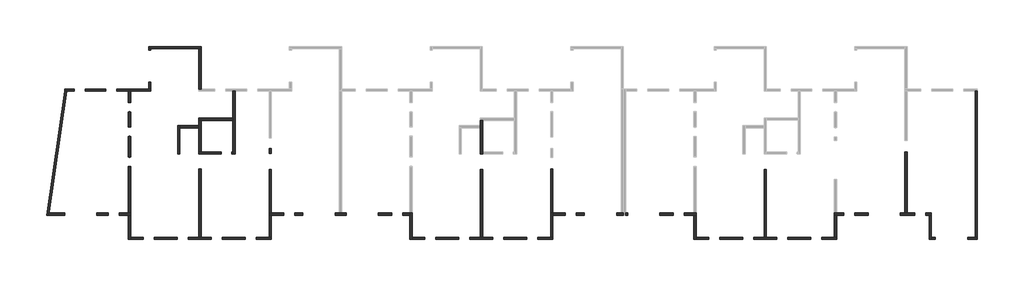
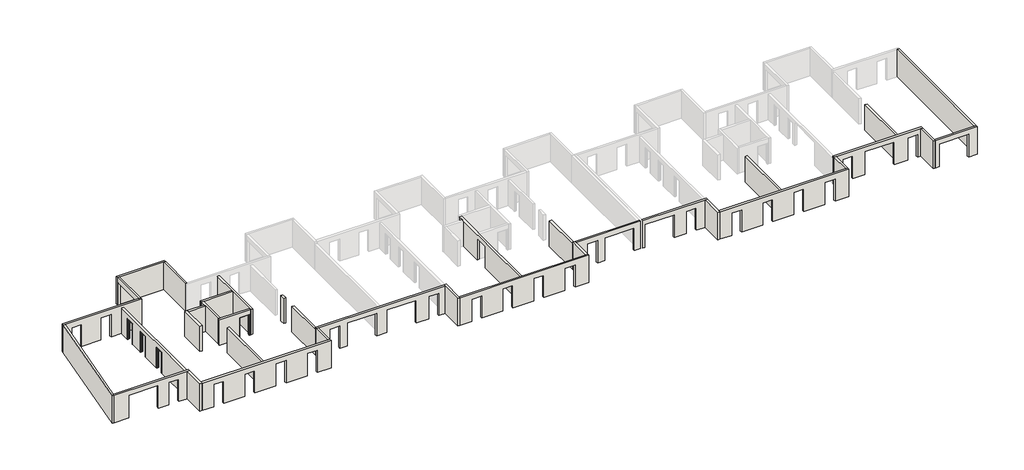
# One storey, part 1 of 2: 36 walls, 4 doors.
"""IFC4 building model written with IfcOpenShell, lengths in millimetres."""

from ifc_helpers import new_model, si_unit, frame, origin, place, context, project, spatial, polyline, outline, extrude, faceted_brep, transform, mapped, element, save
from components import door_48b161e2, door_a0d7bfd5

model = new_model("IFC4")

# Units and contexts
model_context = context("Model", 3, world=origin())
ifc_project = project(units=[si_unit("LENGTHUNIT", "METRE", prefix="MILLI")], contexts=[model_context])

# Site, building, storey
site = spatial("IfcSite", under=ifc_project)
building = spatial("IfcBuilding", under=site)
storey = spatial("IfcBuildingStorey", under=building, Name="Niv +1", Elevation=2700.0)

# Doors
placement = place(None, origin())
door_shape = door_48b161e2(model_context)
element("IfcDoor", 1, ObjectType="FREYS HUISSERIE A BANCHER : FREYS 83*2.035", at=placement, inside=storey, context=model_context, shape_type="MappedRepresentation", body=[
    mapped(door_shape, transform((-24535.4687207, 4881.6493651, 2700.0), x_axis=(0.0, 1.0, 0.0), y_axis=(-1.0, 0.0, 0.0), z_axis=(0.0, 0.0, 1.0))),
])
element("IfcDoor", 2, ObjectType="FREYS HUISSERIE A BANCHER : FREYS 83*2.035", at=placement, inside=storey, context=model_context, shape_type="MappedRepresentation", body=[
    mapped(door_shape, transform((-24535.4687207, 2792.5336653, 2700.0), x_axis=(0.0, 1.0, 0.0), y_axis=(-1.0, 0.0, 0.0), z_axis=(0.0, 0.0, 1.0))),
])
element("IfcDoor", 3, ObjectType="FREYS HUISSERIE A BANCHER : FREYS 83*2.035", at=placement, inside=storey, context=model_context, shape_type="MappedRepresentation", body=[
    mapped(door_shape, transform((-24535.4687207, 207.5134423, 2700.0), x_axis=(0.0, 1.0, 0.0), y_axis=(-1.0, 0.0, 0.0), z_axis=(0.0, 0.0, 1.0))),
])
door_2_shape = door_a0d7bfd5(model_context)
element("IfcDoor", 4, ObjectType="FREYS HUISSERIE A BANCHER : FREYS 93*2.035", at=placement, inside=storey, context=model_context, shape_type="MappedRepresentation", body=[
    mapped(door_2_shape, transform((-16267.2536997, 956.3702418, 2700.0), x_axis=(1.0, 0.0, 0.0), y_axis=(0.0, 1.0, 0.0), z_axis=(0.0, 0.0, 1.0))),
])

# Walls
element("IfcWall", 5, ObjectType="FREYS voile BA C25/30 ep=18 EXT", at=placement, inside=storey, context=model_context, shape_type="Brep", body=[
    faceted_brep([(-22725.443151, 6246.3702418, 5400.0), (-29881.1275521, 6246.3702418, 5400.0), (-30063.034009, 6246.3702418, 5400.0), (-30063.034009, 6246.3702418, 2700.0), (-29881.1275521, 6246.3702418, 2700.0), (-29265.4415616, 6246.3702418, 2700.0), (-29265.4415616, 6246.3702418, 4880.0), (-28325.4415616, 6246.3702418, 4880.0), (-28325.4415616, 6246.3702418, 2700.0), (-26545.4423564, 6246.3702418, 2700.0), (-26545.4423564, 6246.3702418, 4880.0), (-25605.4423564, 6246.3702418, 4880.0), (-25605.4423564, 6246.3702418, 2700.0), (-24635.4687207, 6246.3702418, 2700.0), (-24435.4687207, 6246.3702418, 2700.0), (-22725.443151, 6246.3702418, 2700.0), (-30036.7669373, 6426.3702418, 5400.0), (-22905.443151, 6426.3702418, 5400.0), (-22725.443151, 6426.3702418, 5400.0), (-22725.443151, 6426.3702418, 2700.0), (-22905.443151, 6426.3702418, 2700.0), (-25605.4423564, 6426.3702418, 2700.0), (-25605.4423564, 6426.3702418, 4880.0), (-26545.4423564, 6426.3702418, 4880.0), (-26545.4423564, 6426.3702418, 2700.0), (-28325.4415616, 6426.3702418, 2700.0), (-28325.4415616, 6426.3702418, 4880.0), (-29265.4415616, 6426.3702418, 4880.0), (-29265.4415616, 6426.3702418, 2700.0), (-30036.7669373, 6426.3702418, 2700.0)], [[[0, 1, 2, 3, 4, 5, 6, 7, 8, 9, 10, 11, 12, 13, 14, 15]], [[16, 17, 18, 19, 20, 21, 22, 23, 24, 25, 26, 27, 28, 29]], [[19, 15, 14, 13, 12, 21, 20]], [[3, 29, 28, 5, 4]], [[8, 25, 24, 9]], [[2, 1, 0, 18, 17, 16]], [[0, 15, 19, 18]], [[3, 2, 16, 29]], [[27, 6, 5, 28]], [[7, 26, 25, 8]], [[6, 27, 26, 7]], [[11, 22, 21, 12]], [[23, 10, 9, 24]], [[22, 11, 10, 23]]]),
])
element("IfcWall", 6, ObjectType="FREYS voile BA C25/30 ep=18 EXT", at=placement, inside=storey, context=model_context, shape_type="SweptSolid", body=[
    extrude(outline(polyline([(6426.3702418, 5400.0), (9876.3428653, 5400.0), (9876.3428653, 2700.0), (9746.3428651, 2700.0), (9746.3428651, 4930.0), (7006.3428651, 4930.0), (7006.3428651, 2700.0), (6426.3702418, 2700.0), (6426.3702418, 5400.0)])), frame((-22905.443151, 0.0, 0.0), z_axis=(1.0, 0.0, 0.0), x_axis=(0.0, 1.0, 0.0)), (0.0, 0.0, 1.0), 180.0),
])
element("IfcWall", 7, ObjectType="FREYS voile BA C25/30 ep=18 EXT", at=placement, inside=storey, context=model_context, shape_type="Brep", body=[
    faceted_brep([(-22905.443151, 9876.3428653, 2700.0), (-22725.443151, 9876.3428653, 2700.0), (-18615.4433224, 9876.3428653, 2700.0), (-18435.4433224, 9876.3428653, 2700.0), (-18435.4433224, 9876.3428653, 5400.0), (-18615.4433224, 9876.3428653, 5400.0), (-22725.443151, 9876.3428653, 5400.0), (-22905.443151, 9876.3428653, 5400.0), (-22905.443151, 10056.3428653, 2700.0), (-22905.443151, 10056.3428653, 5400.0), (-18435.4433224, 10056.3428653, 5400.0), (-18435.4433224, 10056.3428653, 2700.0)], [[[0, 1, 2, 3, 4, 5, 6, 7]], [[8, 9, 10, 11]], [[3, 2, 1, 0, 8, 11]], [[7, 6, 5, 4, 10, 9]], [[4, 3, 11, 10]], [[0, 7, 9, 8]]]),
])
element("IfcWall", 8, ObjectType="FREYS voile BA C25/30 ep=18 EXT", at=placement, inside=storey, context=model_context, shape_type="SweptSolid", body=[
    extrude(outline(polyline([(-18615.4433224, 6426.3702418), (-18615.4433224, 9876.3428653), (-18435.4433224, 9876.3428653), (-18435.4433224, 6426.3702418), (-18615.4433224, 6426.3702418)])), frame((0.0, 0.0, 2700.0), z_axis=(0.0, 0.0, 1.0), x_axis=(1.0, 0.0, 0.0)), (0.0, 0.0, 1.0), 2700.0),
])
element("IfcWall", 9, ObjectType="FREYS voile BA C25/30 ep=20 INT", at=placement, inside=storey, context=model_context, shape_type="SweptSolid", body=[
    extrude(outline(polyline([(29564.5058748, -6223.682253), (29564.5058748, -433.6571301), (29764.5058748, -433.6571301), (29764.5058748, -6223.682253), (29564.5058748, -6223.682253)])), frame((0.0, 0.0, 2700.0), z_axis=(0.0, 0.0, 1.0), x_axis=(1.0, 0.0, 0.0)), (0.0, 0.0, 1.0), 2500.0),
])
element("IfcWall", 10, ObjectType="FREYS voile BA C25/30 ep=20 INT", at=placement, inside=storey, context=model_context, shape_type="SweptSolid", body=[
    extrude(outline(polyline([(41564.5566776, -4173.6837353), (41564.5566776, 1056.3989108), (41764.5566776, 1056.3989108), (41764.5566776, -4173.6837353), (41564.5566776, -4173.6837353)])), frame((0.0, 0.0, 2700.0), z_axis=(0.0, 0.0, 1.0), x_axis=(1.0, 0.0, 0.0)), (0.0, 0.0, 1.0), 2500.0),
])
element("IfcWall", 11, ObjectType="FREYS voile BA C25/30 ep=20 INT", at=placement, inside=storey, context=model_context, shape_type="SweptSolid", body=[
    extrude(outline(polyline([(2369.3450086, 2700.0), (614.3247856, 2700.0), (614.3247856, 4735.0), (-215.6752144, 4735.0), (-215.6752144, 2700.0), (-4173.6571231, 2700.0), (-4173.6571231, 5200.0), (6246.3702418, 5200.0), (6246.3702418, 2700.0), (5288.4607084, 2700.0), (5288.4607084, 4735.0), (4458.4607084, 4735.0), (4458.4607084, 2700.0), (3199.3450086, 2700.0), (3199.3450086, 4735.0), (2369.3450086, 4735.0), (2369.3450086, 2700.0)])), frame((-24635.4687207, 0.0, 0.0), z_axis=(1.0, 0.0, 0.0), x_axis=(0.0, 1.0, 0.0)), (0.0, 0.0, 1.0), 200.0),
])
element("IfcWall", 12, ObjectType="FREYS voile BA C25/30 ep=18 EXT", at=placement, inside=storey, context=model_context, shape_type="Brep", body=[
    faceted_brep([(-30063.034009, 6246.3702418, 2700.0), (-31609.8766701, -4353.6571231, 2700.0), (-31609.8766701, -4353.6571231, 5400.0), (-30063.034009, 6246.3702418, 5400.0), (-29881.1275521, 6246.3702418, 2700.0), (-29881.1275521, 6246.3702418, 5400.0), (-31401.7031415, -4173.6571231, 5400.0), (-31427.9702133, -4353.6571231, 5400.0), (-31427.9702133, -4353.6571231, 2700.0), (-31401.7031415, -4173.6571231, 2700.0)], [[[0, 1, 2, 3]], [[4, 5, 6, 7, 8, 9]], [[1, 0, 4, 9, 8]], [[3, 2, 7, 6, 5]], [[0, 3, 5, 4]], [[2, 1, 8, 7]]]),
])
element("IfcWall", 13, ObjectType="FREYS voile BA C25/30 ep=18 EXT", at=placement, inside=storey, context=model_context, shape_type="Brep", body=[
    faceted_brep([(-27315.4431946, -4353.6571231, 4930.0), (-27315.4431946, -4353.6571231, 2700.0), (-26355.4431946, -4353.6571231, 2700.0), (-26355.4431946, -4353.6571231, 4880.0), (-25415.4431946, -4353.6571231, 4880.0), (-25415.4431946, -4353.6571231, 2700.0), (-24635.4687207, -4353.6571231, 2700.0), (-24435.4687207, -4353.6571231, 2700.0), (-24435.4687207, -4353.6571231, 5400.0), (-24635.4687207, -4353.6571231, 5400.0), (-31427.9702133, -4353.6571231, 5400.0), (-31427.9702133, -4353.6571231, 2700.0), (-30055.4431946, -4353.6571231, 2700.0), (-30055.4431946, -4353.6571231, 4930.0), (-26355.4431946, -4173.6571231, 2700.0), (-27315.4431946, -4173.6571231, 2700.0), (-27315.4431946, -4173.6571231, 4930.0), (-30055.4431946, -4173.6571231, 4930.0), (-30055.4431946, -4173.6571231, 2700.0), (-31401.7031415, -4173.6571231, 2700.0), (-31401.7031415, -4173.6571231, 5400.0), (-24435.4687207, -4173.6571231, 5400.0), (-24435.4687207, -4173.6571231, 5200.0), (-24435.4687207, -4173.6571231, 2700.0), (-24635.4687207, -4173.6571231, 2700.0), (-25415.4431946, -4173.6571231, 2700.0), (-25415.4431946, -4173.6571231, 4880.0), (-26355.4431946, -4173.6571231, 4880.0)], [[[0, 1, 2, 3, 4, 5, 6, 7, 8, 9, 10, 11, 12, 13]], [[14, 15, 16, 17, 18, 19, 20, 21, 22, 23, 24, 25, 26, 27]], [[12, 11, 19, 18]], [[2, 1, 15, 14]], [[23, 7, 6, 5, 25, 24]], [[10, 9, 8, 21, 20]], [[11, 10, 20, 19]], [[27, 3, 2, 14]], [[4, 26, 25, 5]], [[3, 27, 26, 4]], [[18, 17, 13, 12]], [[16, 15, 1, 0]], [[17, 16, 0, 13]], [[7, 23, 22, 21, 8]]]),
])
element("IfcWall", 14, ObjectType="FREYS voile BA C25/30 ep=18 EXT", at=placement, inside=storey, context=model_context, shape_type="Brep", body=[
    faceted_brep([(-12435.4687207, -6403.661173, 5400.0), (-24435.4687207, -6403.661173, 5400.0), (-24435.4687207, -6403.661173, 2700.0), (-23357.0301017, -6403.661173, 2700.0), (-23357.0301017, -6403.661173, 4880.0), (-22417.0301017, -6403.661173, 4880.0), (-22417.0301017, -6403.661173, 2700.0), (-20457.0301016, -6403.661173, 2700.0), (-20457.0301016, -6403.661173, 4880.0), (-19517.0301016, -6403.661173, 4880.0), (-19517.0301016, -6403.661173, 2700.0), (-17557.0301112, -6403.661173, 2700.0), (-17557.0301112, -6403.661173, 4880.0), (-16617.0301112, -6403.661173, 4880.0), (-16617.0301112, -6403.661173, 2700.0), (-14657.0301131, -6403.661173, 2700.0), (-14657.0301131, -6403.661173, 4880.0), (-13717.0301131, -6403.661173, 4880.0), (-13717.0301131, -6403.661173, 2700.0), (-12435.4687207, -6403.661173, 2700.0), (-24435.4687207, -6223.661173, 5400.0), (-12635.4687207, -6223.661173, 5400.0), (-12435.4687207, -6223.661173, 5400.0), (-12435.4687207, -6223.661173, 2700.0), (-12635.4687207, -6223.661173, 2700.0), (-13717.0301131, -6223.661173, 2700.0), (-13717.0301131, -6223.661173, 4880.0), (-14657.0301131, -6223.661173, 4880.0), (-14657.0301131, -6223.661173, 2700.0), (-16617.0301112, -6223.661173, 2700.0), (-16617.0301112, -6223.661173, 4880.0), (-17557.0301112, -6223.661173, 4880.0), (-17557.0301112, -6223.661173, 2700.0), (-18435.4942293, -6223.661173, 2700.0), (-18635.4942293, -6223.661173, 2700.0), (-19517.0301016, -6223.661173, 2700.0), (-19517.0301016, -6223.661173, 4880.0), (-20457.0301016, -6223.661173, 4880.0), (-20457.0301016, -6223.661173, 2700.0), (-22417.0301017, -6223.661173, 2700.0), (-22417.0301017, -6223.661173, 4880.0), (-23357.0301017, -6223.661173, 4880.0), (-23357.0301017, -6223.661173, 2700.0), (-24435.4687207, -6223.661173, 2700.0)], [[[0, 1, 2, 3, 4, 5, 6, 7, 8, 9, 10, 11, 12, 13, 14, 15, 16, 17, 18, 19]], [[20, 21, 22, 23, 24, 25, 26, 27, 28, 29, 30, 31, 32, 33, 34, 35, 36, 37, 38, 39, 40, 41, 42, 43]], [[2, 43, 42, 3]], [[23, 19, 18, 25, 24]], [[6, 39, 38, 7]], [[10, 35, 34, 33, 32, 11]], [[14, 29, 28, 15]], [[1, 0, 22, 21, 20]], [[2, 1, 20, 43]], [[0, 19, 23, 22]], [[5, 40, 39, 6]], [[41, 4, 3, 42]], [[40, 5, 4, 41]], [[9, 36, 35, 10]], [[37, 8, 7, 38]], [[36, 9, 8, 37]], [[31, 12, 11, 32]], [[13, 30, 29, 14]], [[12, 31, 30, 13]], [[17, 26, 25, 18]], [[27, 16, 15, 28]], [[26, 17, 16, 27]]]),
])
element("IfcWall", 15, ObjectType="FREYS voile BA C25/30 ep=18 EXT", at=placement, inside=storey, context=model_context, shape_type="Brep", body=[
    faceted_brep([(-10445.443697, -4353.6823111, 2700.0), (-9755.4434502, -4353.6823111, 2700.0), (-9755.4434502, -4353.6823111, 4930.0), (-7015.4434502, -4353.6823111, 4930.0), (-7015.4434502, -4353.6823111, 2700.0), (-6055.4431946, -4353.6823111, 2700.0), (-6055.4431946, -4353.6823111, 4930.0), (-3315.4431946, -4353.6823111, 4930.0), (-3315.4431946, -4353.6823111, 2700.0), (-2175.4432068, -4353.6823111, 2700.0), (-2175.4432068, -4353.6823111, 4880.0), (-1235.4432068, -4353.6823111, 4880.0), (-1235.4432068, -4353.6823111, 2700.0), (-635.4687207, -4353.6823111, 2700.0), (-635.4687207, -4353.6823111, 5400.0), (-12435.4687207, -4353.6823111, 5400.0), (-12635.4687207, -4353.6823111, 5400.0), (-12635.4687207, -4353.6823111, 2700.0), (-12435.4687207, -4353.6823111, 2700.0), (-11385.443697, -4353.6823111, 2700.0), (-11385.443697, -4353.6823111, 4880.0), (-10445.443697, -4353.6823111, 4880.0), (-9755.4434502, -4173.6823111, 4930.0), (-9755.4434502, -4173.6823111, 2700.0), (-10445.443697, -4173.6823111, 2700.0), (-10445.443697, -4173.6823111, 4880.0), (-11385.443697, -4173.6823111, 4880.0), (-11385.443697, -4173.6823111, 2700.0), (-12635.4687207, -4173.6823111, 2700.0), (-12635.4687207, -4173.6823111, 5400.0), (-635.4687207, -4173.6823111, 5400.0), (-635.4687207, -4173.6823111, 2700.0), (-1235.4432068, -4173.6823111, 2700.0), (-1235.4432068, -4173.6823111, 4880.0), (-2175.4432068, -4173.6823111, 4880.0), (-2175.4432068, -4173.6823111, 2700.0), (-3315.4431946, -4173.6823111, 2700.0), (-3315.4431946, -4173.6823111, 4930.0), (-6055.4431946, -4173.6823111, 4930.0), (-6055.4431946, -4173.6823111, 2700.0), (-6435.4433224, -4173.6823111, 2700.0), (-6635.4433224, -4173.6823111, 2700.0), (-7015.4434502, -4173.6823111, 2700.0), (-7015.4434502, -4173.6823111, 4930.0)], [[[0, 1, 2, 3, 4, 5, 6, 7, 8, 9, 10, 11, 12, 13, 14, 15, 16, 17, 18, 19, 20, 21]], [[22, 23, 24, 25, 26, 27, 28, 29, 30, 31, 32, 33, 34, 35, 36, 37, 38, 39, 40, 41, 42, 43]], [[36, 35, 9, 8]], [[24, 23, 1, 0]], [[42, 41, 40, 39, 5, 4]], [[31, 13, 12, 32]], [[19, 18, 17, 28, 27]], [[16, 15, 14, 30, 29]], [[26, 20, 19, 27]], [[21, 25, 24, 0]], [[20, 26, 25, 21]], [[34, 10, 9, 35]], [[11, 33, 32, 12]], [[10, 34, 33, 11]], [[8, 7, 37, 36]], [[6, 5, 39, 38]], [[7, 6, 38, 37]], [[4, 3, 43, 42]], [[2, 1, 23, 22]], [[3, 2, 22, 43]], [[17, 16, 29, 28]], [[13, 31, 30, 14]]]),
])
element("IfcWall", 16, ObjectType="FREYS voile BA C25/30 ep=18 EXT", at=placement, inside=storey, context=model_context, shape_type="Brep", body=[
    faceted_brep([(11564.5281637, -6403.682546, 5400.0), (-435.4687207, -6403.682546, 5400.0), (-435.4687207, -6403.682546, 2700.0), (642.9698985, -6403.682546, 2700.0), (642.9698985, -6403.682546, 4880.0), (1582.9698985, -6403.682546, 4880.0), (1582.9698985, -6403.682546, 2700.0), (3542.9698986, -6403.682546, 2700.0), (3542.9698986, -6403.682546, 4880.0), (4482.9698986, -6403.682546, 4880.0), (4482.9698986, -6403.682546, 2700.0), (6442.9698987, -6403.682546, 2700.0), (6442.9698987, -6403.682546, 4880.0), (7382.9698987, -6403.682546, 4880.0), (7382.9698987, -6403.682546, 2700.0), (9342.9698988, -6403.682546, 2700.0), (9342.9698988, -6403.682546, 4880.0), (10282.9698988, -6403.682546, 4880.0), (10282.9698988, -6403.682546, 2700.0), (11564.5281637, -6403.682546, 2700.0), (-435.4687207, -6223.682546, 5400.0), (11364.5281637, -6223.682546, 5400.0), (11564.5281637, -6223.682546, 5400.0), (11564.5281637, -6223.682546, 2700.0), (11364.5281637, -6223.682546, 2700.0), (10282.9698988, -6223.682546, 2700.0), (10282.9698988, -6223.682546, 4880.0), (9342.9698988, -6223.682546, 4880.0), (9342.9698988, -6223.682546, 2700.0), (7382.9698987, -6223.682546, 2700.0), (7382.9698987, -6223.682546, 4880.0), (6442.9698987, -6223.682546, 4880.0), (6442.9698987, -6223.682546, 2700.0), (5564.5312777, -6223.682546, 2700.0), (5364.5312777, -6223.682546, 2700.0), (4482.9698986, -6223.682546, 2700.0), (4482.9698986, -6223.682546, 4880.0), (3542.9698986, -6223.682546, 4880.0), (3542.9698986, -6223.682546, 2700.0), (1582.9698985, -6223.682546, 2700.0), (1582.9698985, -6223.682546, 4880.0), (642.9698985, -6223.682546, 4880.0), (642.9698985, -6223.682546, 2700.0), (-435.4687207, -6223.682546, 2700.0)], [[[0, 1, 2, 3, 4, 5, 6, 7, 8, 9, 10, 11, 12, 13, 14, 15, 16, 17, 18, 19]], [[20, 21, 22, 23, 24, 25, 26, 27, 28, 29, 30, 31, 32, 33, 34, 35, 36, 37, 38, 39, 40, 41, 42, 43]], [[23, 19, 18, 25, 24]], [[3, 2, 43, 42]], [[6, 39, 38, 7]], [[10, 35, 34, 33, 32, 11]], [[14, 29, 28, 15]], [[1, 0, 22, 21, 20]], [[0, 19, 23, 22]], [[41, 4, 3, 42]], [[5, 40, 39, 6]], [[4, 41, 40, 5]], [[37, 8, 7, 38]], [[9, 36, 35, 10]], [[8, 37, 36, 9]], [[31, 12, 11, 32]], [[13, 30, 29, 14]], [[12, 31, 30, 13]], [[27, 16, 15, 28]], [[17, 26, 25, 18]], [[16, 27, 26, 17]], [[2, 1, 20, 43]]]),
])
element("IfcWall", 17, ObjectType="FREYS voile BA C25/30 ep=18 EXT", at=placement, inside=storey, context=model_context, shape_type="Brep", body=[
    faceted_brep([(16984.5565498, -4353.6825564, 4930.0), (16984.5565498, -4353.6825564, 2700.0), (17554.5566776, -4353.6825564, 2700.0), (17554.5566776, -4353.6825564, 5400.0), (11564.5281637, -4353.6825564, 5400.0), (11564.5281637, -4353.6825564, 2700.0), (12614.5563031, -4353.6825564, 2700.0), (12614.5563031, -4353.6825564, 4880.0), (13554.5563031, -4353.6825564, 4880.0), (13554.5563031, -4353.6825564, 2700.0), (14244.5565498, -4353.6825564, 2700.0), (14244.5565498, -4353.6825564, 4930.0), (17554.5566776, -4173.6825564, 2700.0), (17374.5566776, -4173.6825564, 2700.0), (16984.5565498, -4173.6825564, 2700.0), (16984.5565498, -4173.6825564, 4930.0), (14244.5565498, -4173.6825564, 4930.0), (14244.5565498, -4173.6825564, 2700.0), (13554.5563031, -4173.6825564, 2700.0), (13554.5563031, -4173.6825564, 4880.0), (12614.5563031, -4173.6825564, 4880.0), (12614.5563031, -4173.6825564, 2700.0), (11564.5281637, -4173.6825564, 2700.0), (11564.5281637, -4173.6825564, 5400.0), (17374.5566776, -4173.6825564, 5400.0), (17554.5566776, -4173.6825564, 5400.0)], [[[0, 1, 2, 3, 4, 5, 6, 7, 8, 9, 10, 11]], [[12, 13, 14, 15, 16, 17, 18, 19, 20, 21, 22, 23, 24, 25]], [[10, 9, 18, 17]], [[2, 1, 14, 13, 12]], [[5, 22, 21, 6]], [[4, 3, 25, 24, 23]], [[20, 7, 6, 21]], [[8, 19, 18, 9]], [[7, 20, 19, 8]], [[17, 16, 11, 10]], [[15, 14, 1, 0]], [[16, 15, 0, 11]], [[3, 2, 12, 25]], [[5, 4, 23, 22]]]),
])
element("IfcWall", 18, ObjectType="FREYS voile BA C25/30 ep=18 EXT", at=placement, inside=storey, context=model_context, shape_type="Brep", body=[
    faceted_brep([(17774.5566776, -4353.682553, 2700.0), (17944.5617199, -4353.682553, 2700.0), (17944.5617199, -4353.682553, 4930.0), (20684.5617199, -4353.682553, 4930.0), (20684.5617199, -4353.682553, 2700.0), (21824.5664474, -4353.682553, 2700.0), (21824.5664474, -4353.682553, 4880.0), (22764.5664474, -4353.682553, 4880.0), (22764.5664474, -4353.682553, 2700.0), (23564.5564317, -4353.682553, 2700.0), (23764.5564317, -4353.682553, 2700.0), (23764.5564317, -4353.682553, 5400.0), (23564.5564317, -4353.682553, 5400.0), (17774.5566776, -4353.682553, 5400.0), (17944.5617199, -4173.682553, 4930.0), (17944.5617199, -4173.682553, 2700.0), (17774.5566776, -4173.682553, 2700.0), (17774.5566776, -4173.682553, 5400.0), (23764.5564317, -4173.682553, 5400.0), (23764.5564317, -4173.682553, 2700.0), (22764.5664474, -4173.682553, 2700.0), (22764.5664474, -4173.682553, 4880.0), (21824.5664474, -4173.682553, 4880.0), (21824.5664474, -4173.682553, 2700.0), (20684.5617199, -4173.682553, 2700.0), (20684.5617199, -4173.682553, 4930.0)], [[[0, 1, 2, 3, 4, 5, 6, 7, 8, 9, 10, 11, 12, 13]], [[14, 15, 16, 17, 18, 19, 20, 21, 22, 23, 24, 25]], [[24, 23, 5, 4]], [[16, 15, 1, 0]], [[19, 10, 9, 8, 20]], [[13, 12, 11, 18, 17]], [[0, 13, 17, 16]], [[22, 6, 5, 23]], [[7, 21, 20, 8]], [[6, 22, 21, 7]], [[4, 3, 25, 24]], [[2, 1, 15, 14]], [[3, 2, 14, 25]], [[11, 10, 19, 18]]]),
])
element("IfcWall", 19, ObjectType="FREYS voile BA C25/30 ep=18 EXT", at=placement, inside=storey, context=model_context, shape_type="Brep", body=[
    faceted_brep([(35764.5312786, -6403.682253, 5400.0), (23764.5564317, -6403.682253, 5400.0), (23764.5564317, -6403.682253, 2700.0), (24842.9698985, -6403.682253, 2700.0), (24842.9698985, -6403.682253, 4880.0), (25782.9698985, -6403.682253, 4880.0), (25782.9698985, -6403.682253, 2700.0), (27742.9698986, -6403.682253, 2700.0), (27742.9698986, -6403.682253, 4880.0), (28682.9698986, -6403.682253, 4880.0), (28682.9698986, -6403.682253, 2700.0), (30642.9698987, -6403.682253, 2700.0), (30642.9698987, -6403.682253, 4880.0), (31582.9698987, -6403.682253, 4880.0), (31582.9698987, -6403.682253, 2700.0), (33542.9698988, -6403.682253, 2700.0), (33542.9698988, -6403.682253, 4880.0), (34482.9698988, -6403.682253, 4880.0), (34482.9698988, -6403.682253, 2700.0), (35764.5312786, -6403.682253, 2700.0), (23764.5564317, -6223.682253, 5400.0), (35564.5312786, -6223.682253, 5400.0), (35764.5312786, -6223.682253, 5400.0), (35764.5312786, -6223.682253, 2700.0), (35564.5312786, -6223.682253, 2700.0), (34482.9698988, -6223.682253, 2700.0), (34482.9698988, -6223.682253, 4880.0), (33542.9698988, -6223.682253, 4880.0), (33542.9698988, -6223.682253, 2700.0), (31582.9698987, -6223.682253, 2700.0), (31582.9698987, -6223.682253, 4880.0), (30642.9698987, -6223.682253, 4880.0), (30642.9698987, -6223.682253, 2700.0), (29764.5058748, -6223.682253, 2700.0), (29564.5058748, -6223.682253, 2700.0), (28682.9698986, -6223.682253, 2700.0), (28682.9698986, -6223.682253, 4880.0), (27742.9698986, -6223.682253, 4880.0), (27742.9698986, -6223.682253, 2700.0), (25782.9698985, -6223.682253, 2700.0), (25782.9698985, -6223.682253, 4880.0), (24842.9698985, -6223.682253, 4880.0), (24842.9698985, -6223.682253, 2700.0), (23764.5564317, -6223.682253, 2700.0)], [[[0, 1, 2, 3, 4, 5, 6, 7, 8, 9, 10, 11, 12, 13, 14, 15, 16, 17, 18, 19]], [[20, 21, 22, 23, 24, 25, 26, 27, 28, 29, 30, 31, 32, 33, 34, 35, 36, 37, 38, 39, 40, 41, 42, 43]], [[2, 43, 42, 3]], [[23, 19, 18, 25, 24]], [[6, 39, 38, 7]], [[10, 35, 34, 33, 32, 11]], [[14, 29, 28, 15]], [[1, 0, 22, 21, 20]], [[2, 1, 20, 43]], [[0, 19, 23, 22]], [[41, 4, 3, 42]], [[5, 40, 39, 6]], [[4, 41, 40, 5]], [[9, 36, 35, 10]], [[37, 8, 7, 38]], [[36, 9, 8, 37]], [[13, 30, 29, 14]], [[31, 12, 11, 32]], [[30, 13, 12, 31]], [[27, 16, 15, 28]], [[17, 26, 25, 18]], [[16, 27, 26, 17]]]),
])
element("IfcWall", 20, ObjectType="FREYS voile BA C25/30 ep=18 EXT", at=placement, inside=storey, context=model_context, shape_type="Brep", body=[
    faceted_brep([(41184.5565498, -4353.6837353, 4930.0), (41184.5565498, -4353.6837353, 2700.0), (42407.3677202, -4353.6837353, 2700.0), (42407.3677202, -4353.6837353, 4880.0), (43347.3677202, -4353.6837353, 4880.0), (43347.3677202, -4353.6837353, 2700.0), (43624.5564412, -4353.6837353, 2700.0), (43804.5564412, -4353.6837353, 2700.0), (43804.5564412, -4353.6837353, 5400.0), (43624.5564412, -4353.6837353, 5400.0), (35764.5312786, -4353.6837353, 5400.0), (35564.5312786, -4353.6837353, 5400.0), (35564.5312786, -4353.6837353, 2700.0), (35764.5312786, -4353.6837353, 2700.0), (36374.5565619, -4353.6837353, 2700.0), (36374.5565619, -4353.6837353, 4880.0), (37314.5565619, -4353.6837353, 4880.0), (37314.5565619, -4353.6837353, 2700.0), (38444.5565498, -4353.6837353, 2700.0), (38444.5565498, -4353.6837353, 4930.0), (42407.3677202, -4173.6837353, 2700.0), (41764.5566776, -4173.6837353, 2700.0), (41564.5566776, -4173.6837353, 2700.0), (41184.5565498, -4173.6837353, 2700.0), (41184.5565498, -4173.6837353, 4930.0), (38444.5565498, -4173.6837353, 4930.0), (38444.5565498, -4173.6837353, 2700.0), (37314.5565619, -4173.6837353, 2700.0), (37314.5565619, -4173.6837353, 4880.0), (36374.5565619, -4173.6837353, 4880.0), (36374.5565619, -4173.6837353, 2700.0), (35564.5312786, -4173.6837353, 2700.0), (35564.5312786, -4173.6837353, 5400.0), (43804.5564412, -4173.6837353, 5400.0), (43804.5564412, -4173.6837353, 2700.0), (43347.3677202, -4173.6837353, 2700.0), (43347.3677202, -4173.6837353, 4880.0), (42407.3677202, -4173.6837353, 4880.0)], [[[0, 1, 2, 3, 4, 5, 6, 7, 8, 9, 10, 11, 12, 13, 14, 15, 16, 17, 18, 19]], [[20, 21, 22, 23, 24, 25, 26, 27, 28, 29, 30, 31, 32, 33, 34, 35, 36, 37]], [[34, 7, 6, 5, 35]], [[18, 17, 27, 26]], [[2, 1, 23, 22, 21, 20]], [[14, 13, 12, 31, 30]], [[11, 10, 9, 8, 33, 32]], [[8, 7, 34, 33]], [[29, 15, 14, 30]], [[16, 28, 27, 17]], [[15, 29, 28, 16]], [[37, 3, 2, 20]], [[4, 36, 35, 5]], [[3, 37, 36, 4]], [[26, 25, 19, 18]], [[24, 23, 1, 0]], [[25, 24, 0, 19]], [[12, 11, 32, 31]]]),
])
element("IfcWall", 21, ObjectType="FREYS voile BA C25/30 ep=18 EXT", at=placement, inside=storey, context=model_context, shape_type="Brep", body=[
    faceted_brep([(43624.5564412, -4353.6837353, 2700.0), (43624.5564412, -6403.7079703, 2700.0), (43624.5564412, -6403.7079703, 5400.0), (43624.5564412, -4353.6837353, 5400.0), (43804.5564412, -4353.6837353, 2700.0), (43804.5564412, -4353.6837353, 5400.0), (43804.5564412, -6223.7079703, 5400.0), (43804.5564412, -6403.7079703, 5400.0), (43804.5564412, -6403.7079703, 2700.0), (43804.5564412, -6223.7079703, 2700.0)], [[[0, 1, 2, 3]], [[4, 5, 6, 7, 8, 9]], [[1, 0, 4, 9, 8]], [[3, 2, 7, 6, 5]], [[0, 3, 5, 4]], [[2, 1, 8, 7]]]),
])
element("IfcWall", 22, ObjectType="FREYS voile BA C25/30 ep=18 EXT", at=placement, inside=storey, context=model_context, shape_type="Brep", body=[
    faceted_brep([(46906.0231852, -6403.7079703, 4930.0), (46906.0231852, -6403.7079703, 2700.0), (47734.5312792, -6403.7079703, 2700.0), (47734.5312792, -6403.7079703, 5400.0), (43804.5564412, -6403.7079703, 5400.0), (43804.5564412, -6403.7079703, 2700.0), (44166.0231852, -6403.7079703, 2700.0), (44166.0231852, -6403.7079703, 4930.0), (47734.5312792, -6223.7079703, 2700.0), (47554.5312792, -6223.7079703, 2700.0), (46906.0231852, -6223.7079703, 2700.0), (46906.0231852, -6223.7079703, 4930.0), (44166.0231852, -6223.7079703, 4930.0), (44166.0231852, -6223.7079703, 2700.0), (43804.5564412, -6223.7079703, 2700.0), (43804.5564412, -6223.7079703, 5400.0), (47554.5312792, -6223.7079703, 5400.0), (47734.5312792, -6223.7079703, 5400.0)], [[[0, 1, 2, 3, 4, 5, 6, 7]], [[8, 9, 10, 11, 12, 13, 14, 15, 16, 17]], [[6, 5, 14, 13]], [[2, 1, 10, 9, 8]], [[4, 3, 17, 16, 15]], [[5, 4, 15, 14]], [[3, 2, 8, 17]], [[13, 12, 7, 6]], [[11, 10, 1, 0]], [[12, 11, 0, 7]]]),
])
element("IfcWall", 23, ObjectType="FREYS voile BA C25/30 ep=18 INT", at=placement, inside=storey, context=model_context, shape_type="Brep", body=[
    faceted_brep([(-15715.4423564, 6246.3702418, 2700.0), (-15715.4423564, 3926.3428169, 2700.0), (-15715.4423564, 3746.3428169, 2700.0), (-15715.4423564, 1046.3702418, 2700.0), (-15715.4423564, 866.3702418, 2700.0), (-15715.4423564, 866.3702418, 5200.0), (-15715.4423564, 1046.3702418, 5200.0), (-15715.4423564, 3746.3428169, 5200.0), (-15715.4423564, 3926.3428169, 5200.0), (-15715.4423564, 6246.3702418, 5200.0), (-15535.4423564, 6246.3702418, 2700.0), (-15535.4423564, 6246.3702418, 5200.0), (-15535.4423564, 866.3702418, 5200.0), (-15535.4423564, 866.3702418, 2700.0)], [[[0, 1, 2, 3, 4, 5, 6, 7, 8, 9]], [[10, 11, 12, 13]], [[4, 3, 2, 1, 0, 10, 13]], [[9, 8, 7, 6, 5, 12, 11]], [[0, 9, 11, 10]], [[5, 4, 13, 12]]]),
])
element("IfcWall", 24, ObjectType="FREYS voile BA C25/30 ep=18 INT", at=placement, inside=storey, context=model_context, shape_type="Brep", body=[
    faceted_brep([(-15715.4423564, 1046.3702418, 2700.0), (-15810.4423564, 1046.3702418, 2700.0), (-15810.4423564, 1046.3702418, 4735.0), (-16740.4423564, 1046.3702418, 4735.0), (-16740.4423564, 1046.3702418, 2700.0), (-18435.4741279, 1046.3702418, 2700.0), (-18635.4741279, 1046.3702418, 2700.0), (-18635.4741279, 1046.3702418, 5200.0), (-18435.4741279, 1046.3702418, 5200.0), (-15715.4423564, 1046.3702418, 5200.0), (-15810.4423564, 866.3702418, 4735.0), (-15810.4423564, 866.3702418, 2700.0), (-15715.4423564, 866.3702418, 2700.0), (-15715.4423564, 866.3702418, 5200.0), (-18635.4741279, 866.3702418, 5200.0), (-18635.4741279, 866.3702418, 2700.0), (-16740.4423564, 866.3702418, 2700.0), (-16740.4423564, 866.3702418, 4735.0)], [[[0, 1, 2, 3, 4, 5, 6, 7, 8, 9]], [[10, 11, 12, 13, 14, 15, 16, 17]], [[16, 15, 6, 5, 4]], [[12, 11, 1, 0]], [[9, 8, 7, 14, 13]], [[0, 9, 13, 12]], [[7, 6, 15, 14]], [[4, 3, 17, 16]], [[2, 1, 11, 10]], [[3, 2, 10, 17]]]),
])
element("IfcWall", 25, ObjectType="FREYS voile BA C25/30 ep=18 INT", at=placement, inside=storey, context=model_context, shape_type="Brep", body=[
    faceted_brep([(-15715.4423564, 3926.3428169, 2700.0), (-18635.4741279, 3926.3428169, 2700.0), (-18635.4741279, 3926.3428169, 5200.0), (-15715.4423564, 3926.3428169, 5200.0), (-15715.4423564, 3746.3428169, 2700.0), (-15715.4423564, 3746.3428169, 5200.0), (-18435.4741279, 3746.3428169, 5200.0), (-18635.4741279, 3746.3428169, 5200.0), (-18635.4741279, 3746.3428169, 2700.0), (-18435.4741279, 3746.3428169, 2700.0)], [[[0, 1, 2, 3]], [[4, 5, 6, 7, 8, 9]], [[1, 0, 4, 9, 8]], [[3, 2, 7, 6, 5]], [[0, 3, 5, 4]], [[2, 1, 8, 7]]]),
])
element("IfcWall", 26, ObjectType="FREYS voile BA C25/30 ep=20 INT", at=placement, inside=storey, context=model_context, shape_type="SweptSolid", body=[
    extrude(outline(polyline([(-18435.4942293, -423.6548958), (-18435.4942293, -6223.661173), (-18635.4942293, -6223.661173), (-18635.4942293, -423.6548958), (-18435.4942293, -423.6548958)])), frame((0.0, 0.0, 2700.0), z_axis=(0.0, 0.0, 1.0), x_axis=(1.0, 0.0, 0.0)), (0.0, 0.0, 1.0), 2500.0),
])
element("IfcWall", 27, ObjectType="FREYS voile BA C25/30 ep=20 INT", at=placement, inside=storey, context=model_context, shape_type="Brep", body=[
    faceted_brep([(-20235.4433224, 866.3702418, 2700.0), (-20235.4433224, 3086.3428699, 2700.0), (-20235.4433224, 3286.3428699, 2700.0), (-20235.4433224, 3286.3428699, 5200.0), (-20235.4433224, 3086.3428699, 5200.0), (-20235.4433224, 866.3702418, 5200.0), (-20435.4433224, 866.3702418, 2700.0), (-20435.4433224, 866.3702418, 5200.0), (-20435.4433224, 3286.3428699, 5200.0), (-20435.4433224, 3286.3428699, 2700.0)], [[[0, 1, 2, 3, 4, 5]], [[6, 7, 8, 9]], [[2, 1, 0, 6, 9]], [[5, 4, 3, 8, 7]], [[0, 5, 7, 6]], [[3, 2, 9, 8]]]),
])
element("IfcWall", 28, ObjectType="FREYS voile BA C25/30 ep=20 INT", at=placement, inside=storey, context=model_context, shape_type="SweptSolid", body=[
    extrude(outline(polyline([(-18635.4741279, 3086.3428699), (-20235.4433224, 3086.3428699), (-20235.4433224, 3286.3428699), (-18635.4741279, 3286.3428699), (-18635.4741279, 3086.3428699)])), frame((0.0, 0.0, 2700.0), z_axis=(0.0, 0.0, 1.0), x_axis=(1.0, 0.0, 0.0)), (0.0, 0.0, 1.0), 2500.0),
])
element("IfcWall", 29, ObjectType="FREYS voile BA C25/30 ep=20 INT", at=placement, inside=storey, context=model_context, shape_type="Brep", body=[
    faceted_brep([(-18635.4741279, 3746.3428169, 2700.0), (-18635.4741279, 3286.3428699, 2700.0), (-18635.4741279, 3086.3428699, 2700.0), (-18635.4741279, 1046.3702418, 2700.0), (-18635.4741279, 1046.3702418, 5200.0), (-18635.4741279, 3086.3428699, 5200.0), (-18635.4741279, 3286.3428699, 5200.0), (-18635.4741279, 3746.3428169, 5200.0), (-18435.4741279, 3746.3428169, 2700.0), (-18435.4741279, 3746.3428169, 5200.0), (-18435.4741279, 1046.3702418, 5200.0), (-18435.4741279, 1046.3702418, 2700.0)], [[[0, 1, 2, 3, 4, 5, 6, 7]], [[8, 9, 10, 11]], [[3, 2, 1, 0, 8, 11]], [[7, 6, 5, 4, 10, 9]], [[4, 3, 11, 10]], [[0, 7, 9, 8]]]),
])
element("IfcWall", 30, ObjectType="FREYS voile BA C25/30 ep=20 INT", at=placement, inside=storey, context=model_context, shape_type="SweptSolid", body=[
    extrude(outline(polyline([(-12635.4687207, 896.342868), (-12635.4687207, 1356.342868), (-12435.4687207, 1356.342868), (-12435.4687207, 896.342868), (-12635.4687207, 896.342868)])), frame((0.0, 0.0, 2700.0), z_axis=(0.0, 0.0, 1.0), x_axis=(1.0, 0.0, 0.0)), (0.0, 0.0, 1.0), 2500.0),
])
element("IfcWall", 31, ObjectType="FREYS voile BA C25/30 ep=20 INT", at=placement, inside=storey, context=model_context, shape_type="SweptSolid", body=[
    extrude(outline(polyline([(-12635.4687207, -4173.6823111), (-12635.4687207, -453.6439858), (-12435.4687207, -453.6439858), (-12435.4687207, -4173.6823111), (-12635.4687207, -4173.6823111)])), frame((0.0, 0.0, 2700.0), z_axis=(0.0, 0.0, 1.0), x_axis=(1.0, 0.0, 0.0)), (0.0, 0.0, 1.0), 2500.0),
])
element("IfcWall", 32, ObjectType="FREYS voile BA C25/30 ep=20 INT", at=placement, inside=storey, context=model_context, shape_type="Brep", body=[
    faceted_brep([(5364.5312777, -433.6977247, 4790.0), (5364.5312777, -433.6977247, 2700.0), (5364.5312777, -6223.682546, 2700.0), (5364.5312777, -6223.682546, 5200.0), (5364.5312777, 3086.3428538, 5200.0), (5364.5312777, 3286.3428538, 5200.0), (5364.5312777, 3736.3174518, 5200.0), (5364.5312777, 3736.3174518, 2700.0), (5364.5312777, 3286.3428538, 2700.0), (5364.5312777, 3086.3428538, 2700.0), (5364.5312777, 856.3022753, 2700.0), (5364.5312777, 856.3022753, 4790.0), (5564.5312777, -6223.682546, 2700.0), (5564.5312777, -433.6977247, 2700.0), (5564.5312777, -433.6977247, 4790.0), (5564.5312777, 856.3022753, 4790.0), (5564.5312777, 856.3022753, 2700.0), (5564.5312777, 1036.3022753, 2700.0), (5564.5312777, 3736.3174518, 2700.0), (5564.5312777, 3736.3174518, 5200.0), (5564.5312777, 1036.3022753, 5200.0), (5564.5312777, 856.3022753, 5200.0), (5564.5312777, -6223.682546, 5200.0)], [[[0, 1, 2, 3, 4, 5, 6, 7, 8, 9, 10, 11]], [[12, 13, 14, 15, 16, 17, 18, 19, 20, 21, 22]], [[2, 1, 13, 12]], [[10, 9, 8, 7, 18, 17, 16]], [[6, 5, 4, 3, 22, 21, 20, 19]], [[7, 6, 19, 18]], [[3, 2, 12, 22]], [[16, 15, 11, 10]], [[14, 13, 1, 0]], [[15, 14, 0, 11]]]),
])
element("IfcWall", 33, ObjectType="FREYS voile BA C25/30 ep=20 INT", at=placement, inside=storey, context=model_context, shape_type="SweptSolid", body=[
    extrude(outline(polyline([(11364.5281637, -4173.6825564), (11364.5281637, -393.6439858), (11564.5281637, -393.6439858), (11564.5281637, -4173.6825564), (11364.5281637, -4173.6825564)])), frame((0.0, 0.0, 2700.0), z_axis=(0.0, 0.0, 1.0), x_axis=(1.0, 0.0, 0.0)), (0.0, 0.0, 1.0), 2500.0),
])
element("IfcWall", 34, ObjectType="FREYS voile BA C25/30 ep=18 EXT", at=placement, inside=storey, context=model_context, shape_type="SweptSolid", body=[
    extrude(outline(polyline([(47554.5312792, -6223.7079703), (47554.5312792, 6236.3428699), (47734.5312792, 6236.3428699), (47734.5312792, -6223.7079703), (47554.5312792, -6223.7079703)])), frame((0.0, 0.0, 2700.0), z_axis=(0.0, 0.0, 1.0), x_axis=(1.0, 0.0, 0.0)), (0.0, 0.0, 1.0), 2700.0),
])
element("IfcWall", 35, ObjectType="FREYS voile BA C25/30 ep=20 EXT", at=placement, inside=storey, context=model_context, shape_type="Brep", body=[
    faceted_brep([(-24635.4687207, -4353.6571231, 5400.0), (-24635.4687207, -4353.6571231, 2700.0), (-24635.4687207, -6403.661173, 2700.0), (-24635.4687207, -6403.661173, 5400.0), (-24435.4687207, -4353.6571231, 2700.0), (-24435.4687207, -4353.6571231, 5400.0), (-24435.4687207, -6223.661173, 5400.0), (-24435.4687207, -6403.661173, 5400.0), (-24435.4687207, -6403.661173, 2700.0), (-24435.4687207, -6223.661173, 2700.0)], [[[0, 1, 2, 3]], [[4, 5, 6, 7, 8, 9]], [[2, 1, 4, 9, 8]], [[0, 3, 7, 6, 5]], [[3, 2, 8, 7]], [[0, 5, 4, 1]]]),
])
element("IfcWall", 36, ObjectType="FREYS voile BA C25/30 ep=20 EXT", at=placement, inside=storey, context=model_context, shape_type="SweptSolid", body=[
    extrude(outline(polyline([(35564.5312786, -6223.682253), (35564.5312786, -4353.6837353), (35764.5312786, -4353.6837353), (35764.5312786, -6223.682253), (35564.5312786, -6223.682253)])), frame((0.0, 0.0, 2700.0), z_axis=(0.0, 0.0, 1.0), x_axis=(1.0, 0.0, 0.0)), (0.0, 0.0, 1.0), 2700.0),
])
element("IfcWall", 37, ObjectType="FREYS voile BA C25/30 ep=20 EXT", at=placement, inside=storey, context=model_context, shape_type="Brep", body=[
    faceted_brep([(23564.5564317, -4353.682553, 2700.0), (23564.5564317, -6403.682253, 2700.0), (23564.5564317, -6403.682253, 5400.0), (23564.5564317, -4353.682553, 5400.0), (23764.5564317, -4353.682553, 2700.0), (23764.5564317, -4353.682553, 5400.0), (23764.5564317, -6223.682253, 5400.0), (23764.5564317, -6403.682253, 5400.0), (23764.5564317, -6403.682253, 2700.0), (23764.5564317, -6223.682253, 2700.0)], [[[0, 1, 2, 3]], [[4, 5, 6, 7, 8, 9]], [[1, 0, 4, 9, 8]], [[3, 2, 7, 6, 5]], [[2, 1, 8, 7]], [[0, 3, 5, 4]]]),
])
element("IfcWall", 38, ObjectType="FREYS voile BA C25/30 ep=20 EXT", at=placement, inside=storey, context=model_context, shape_type="Brep", body=[
    faceted_brep([(11364.5281637, -4173.6825564, 2700.0), (11364.5281637, -6223.682546, 2700.0), (11364.5281637, -6223.682546, 5400.0), (11364.5281637, -4173.6825564, 5400.0), (11564.5281637, -4173.6825564, 2700.0), (11564.5281637, -4173.6825564, 5400.0), (11564.5281637, -4353.6825564, 5400.0), (11564.5281637, -6223.682546, 5400.0), (11564.5281637, -6223.682546, 2700.0), (11564.5281637, -4353.6825564, 2700.0)], [[[0, 1, 2, 3]], [[4, 5, 6, 7, 8, 9]], [[1, 0, 4, 9, 8]], [[3, 2, 7, 6, 5]], [[2, 1, 8, 7]], [[0, 3, 5, 4]]]),
])
element("IfcWall", 39, ObjectType="FREYS voile BA C25/30 ep=20 EXT", at=placement, inside=storey, context=model_context, shape_type="Brep", body=[
    faceted_brep([(-635.4687207, -4173.6823111, 5400.0), (-635.4687207, -4173.6823111, 5200.0), (-635.4687207, -4173.6823111, 2700.0), (-635.4687207, -4353.6823111, 2700.0), (-635.4687207, -6403.682546, 2700.0), (-635.4687207, -6403.682546, 5400.0), (-635.4687207, -4353.6823111, 5400.0), (-435.4687207, -4173.6823111, 2700.0), (-435.4687207, -4173.6823111, 5200.0), (-435.4687207, -4173.6823111, 5400.0), (-435.4687207, -6223.682546, 5400.0), (-435.4687207, -6403.682546, 5400.0), (-435.4687207, -6403.682546, 2700.0), (-435.4687207, -6223.682546, 2700.0)], [[[0, 1, 2, 3, 4, 5, 6]], [[7, 8, 9, 10, 11, 12, 13]], [[4, 3, 2, 7, 13, 12]], [[0, 6, 5, 11, 10, 9]], [[5, 4, 12, 11]], [[0, 9, 8, 7, 2, 1]]]),
])
element("IfcWall", 40, ObjectType="FREYS voile BA C25/30 ep=20 EXT", at=placement, inside=storey, context=model_context, shape_type="SweptSolid", body=[
    extrude(outline(polyline([(-12635.4687207, -6223.661173), (-12635.4687207, -4353.6823111), (-12435.4687207, -4353.6823111), (-12435.4687207, -6223.661173), (-12635.4687207, -6223.661173)])), frame((0.0, 0.0, 2700.0), z_axis=(0.0, 0.0, 1.0), x_axis=(1.0, 0.0, 0.0)), (0.0, 0.0, 1.0), 2700.0),
])

save(model, "model.ifc")
